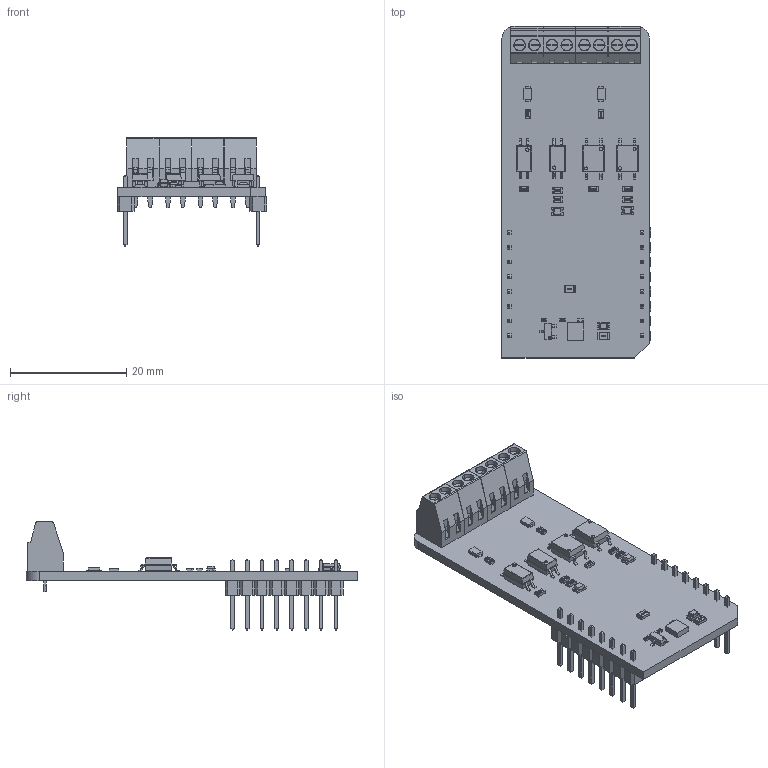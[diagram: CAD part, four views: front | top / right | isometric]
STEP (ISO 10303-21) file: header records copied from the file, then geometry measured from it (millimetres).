
FILE_DESCRIPTION(('Open CASCADE Model'),'2;1');
FILE_NAME('Open CASCADE Shape Model','2026-04-02T11:06:31',('Author'),( 'Open CASCADE'),'Open CASCADE STEP processor 7.5','Open CASCADE 7.5' ,'Unknown');
FILE_SCHEMA(('AUTOMOTIVE_DESIGN { 1 0 10303 214 1 1 1 1 }'));
Length unit declared in the file: millimetre
Products named in the file (53): PCB; Board; Open CASCADE STEP translator 7.5 1.1.1; TB3; ScrewTerminal 2.54; TB4; TB1; TB2; R11; User Library-R_0603; R10; R8; R9; R6; R7; R5; R3; OC4; TLP3122A_TPL,E; OC2; TLP3640A_V4TPL,E; Body; PinsArrayLR; OC3; OC1; LD3; CHIPLED-0805-RED; LD2; D2; US2H; D1; JP1; User Library-R_0805; MBD1; Header 1x8; Free-Models; 1240637040; User_Library-PinHeaderX5-1_PinHeaderX5_Body_1; User_Library-PinHeaderX5-1_PinHeaderX5_Pins_1; U1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
Assembly tree (70 placements, depth 7):
  PCB
    Board
      Open CASCADE STEP translator 7.5 1.1.1
    TB3
      ScrewTerminal 2.54
    TB4
      ScrewTerminal 2.54
    TB1
      ScrewTerminal 2.54
    TB2
      ScrewTerminal 2.54
    R11
      User Library-R_0603
    R10
      User Library-R_0603
    R8
      User Library-R_0603
    R9
      User Library-R_0603
    R6
      User Library-R_0603
    R7
      User Library-R_0603
    R5
      User Library-R_0603
    R3
      User Library-R_0603
    OC4
      TLP3122A_TPL,E
    OC2
      TLP3640A_V4TPL,E
        Body
        PinsArrayLR
    OC3
      TLP3122A_TPL,E
    OC1
      TLP3640A_V4TPL,E
        Body
        PinsArrayLR
    LD3
      CHIPLED-0805-RED
    LD2
      CHIPLED-0805-RED
    D2
      US2H
    D1
      US2H
    JP1
      User Library-R_0805
    MBD1
      Header 1x8  x2
        PCB
          Free-Models
            1240637040  x2
              User_Library-PinHeaderX5-1_PinHeaderX5_Body_1
              User_Library-PinHeaderX5-1_PinHeaderX5_Pins_1
    U1
      9926358272
        Extruded
    Q1
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Bounding box: 25.78 x 57.15 x 18.61 mm (x, y, z)
Volume: 3620.7 mm3; surface area: 7687.7 mm2
Topology: 117 solids, 117 shells, 2906 faces, 7385 edges, 4806 vertices
Faces by surface type: plane 2105, bspline 496, cylinder 291, sphere 14
Full cylindrical faces by diameter (mm): 0.575 x2
Entity records: 40432 total; most frequent: CARTESIAN_POINT 12242, ORIENTED_EDGE 4826, DIRECTION 4298, EDGE_CURVE 2413, LINE 1918, VECTOR 1918, VERTEX_POINT 1562, AXIS2_PLACEMENT_3D 1190
